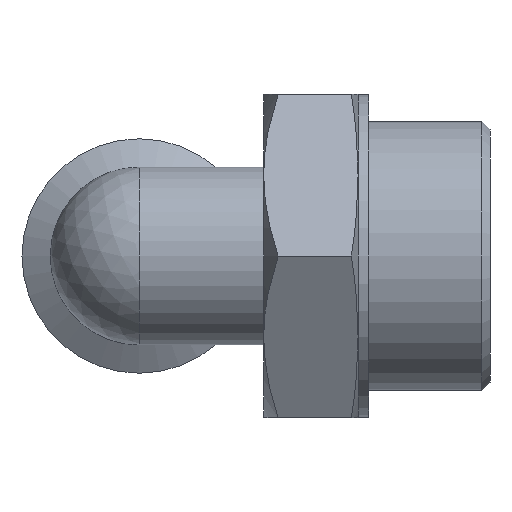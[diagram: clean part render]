
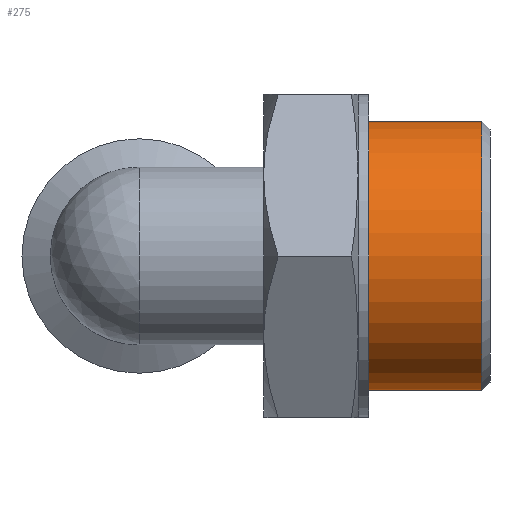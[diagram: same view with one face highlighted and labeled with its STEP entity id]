
A CAD part, left-side view. The second image highlights one B-rep face of the part: STEP entity #275.
In plain terms, the highlighted cylindrical face has radius 8.33 mm (diameter 16.66 mm), a full revolution.
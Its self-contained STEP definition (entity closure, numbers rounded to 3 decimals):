
#232=CARTESIAN_POINT('',(-8.33,-21.2,0.));
#233=VERTEX_POINT('',#232);
#234=CARTESIAN_POINT('',(0.0,-21.2,0.0));
#235=DIRECTION('',(0.0,-1.0,0.0));
#236=DIRECTION('',(1.0,0.0,0.0));
#237=AXIS2_PLACEMENT_3D('',#234,#235,#236);
#238=CIRCLE('',#237,8.33);
#239=EDGE_CURVE('',#233,#233,#238,.T.);
#256=CARTESIAN_POINT('',(0.0,-17.95,0.0));
#257=DIRECTION('',(0.0,1.0,0.0));
#258=DIRECTION('',(-1.0,0.0,0.0));
#259=AXIS2_PLACEMENT_3D('',#256,#257,#258);
#260=CYLINDRICAL_SURFACE('',#259,8.33);
#261=CARTESIAN_POINT('',(-8.33,-14.2,0.0));
#262=VERTEX_POINT('',#261);
#263=CARTESIAN_POINT('',(0.0,-14.2,0.0));
#264=DIRECTION('',(0.0,1.0,0.0));
#265=DIRECTION('',(-1.0,0.0,0.0));
#266=AXIS2_PLACEMENT_3D('',#263,#264,#265);
#267=CIRCLE('',#266,8.33);
#268=EDGE_CURVE('',#262,#262,#267,.T.);
#269=ORIENTED_EDGE('',*,*,#268,.F.);
#270=EDGE_LOOP('',(#269));
#271=FACE_OUTER_BOUND('',#270,.T.);
#272=ORIENTED_EDGE('',*,*,#239,.F.);
#273=EDGE_LOOP('',(#272));
#274=FACE_BOUND('',#273,.T.);
#275=ADVANCED_FACE('',(#271,#274),#260,.T.);
